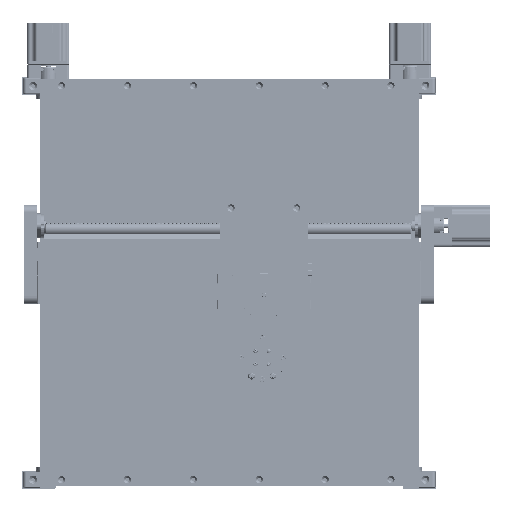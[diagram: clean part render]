
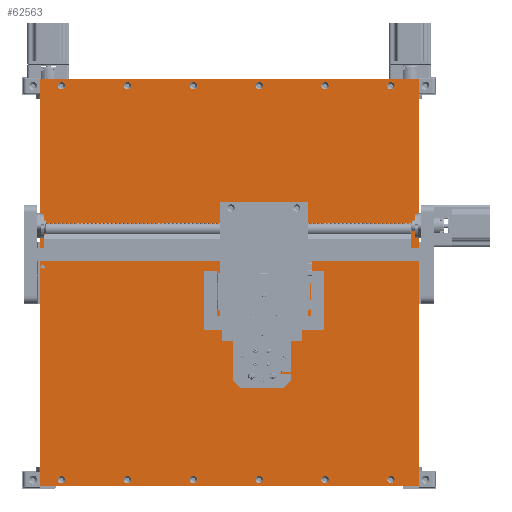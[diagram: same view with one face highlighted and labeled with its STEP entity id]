
A CAD part, top view. The second image highlights one B-rep face of the part: STEP entity #62563.
In plain terms, the highlighted planar face has unit normal (0, 0, 1).
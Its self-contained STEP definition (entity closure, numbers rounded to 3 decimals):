
#4147=FACE_BOUND('',#12591,.T.);
#4148=FACE_BOUND('',#12592,.T.);
#4149=FACE_BOUND('',#12593,.T.);
#4150=FACE_BOUND('',#12594,.T.);
#4151=FACE_BOUND('',#12595,.T.);
#4152=FACE_BOUND('',#12596,.T.);
#4153=FACE_BOUND('',#12597,.T.);
#4154=FACE_BOUND('',#12598,.T.);
#4155=FACE_BOUND('',#12599,.T.);
#4156=FACE_BOUND('',#12600,.T.);
#4157=FACE_BOUND('',#12601,.T.);
#4158=FACE_BOUND('',#12602,.T.);
#4770=PLANE('',#66543);
#9041=FACE_OUTER_BOUND('',#12590,.T.);
#12590=EDGE_LOOP('',(#43594,#43595,#43596,#43597));
#12591=EDGE_LOOP('',(#43598));
#12592=EDGE_LOOP('',(#43599));
#12593=EDGE_LOOP('',(#43600));
#12594=EDGE_LOOP('',(#43601));
#12595=EDGE_LOOP('',(#43602));
#12596=EDGE_LOOP('',(#43603));
#12597=EDGE_LOOP('',(#43604));
#12598=EDGE_LOOP('',(#43605));
#12599=EDGE_LOOP('',(#43606));
#12600=EDGE_LOOP('',(#43607));
#12601=EDGE_LOOP('',(#43608));
#12602=EDGE_LOOP('',(#43609));
#16762=LINE('',#86643,#21524);
#16763=LINE('',#86645,#21525);
#16764=LINE('',#86647,#21526);
#16765=LINE('',#86648,#21527);
#21524=VECTOR('',#71664,10.);
#21525=VECTOR('',#71665,10.);
#21526=VECTOR('',#71666,10.);
#21527=VECTOR('',#71667,10.);
#26284=CIRCLE('',#66539,5.);
#26287=CIRCLE('',#66544,5.);
#26288=CIRCLE('',#66545,5.);
#26289=CIRCLE('',#66546,5.);
#26290=CIRCLE('',#66547,5.);
#26291=CIRCLE('',#66548,5.);
#26292=CIRCLE('',#66549,5.);
#26293=CIRCLE('',#66550,5.);
#26294=CIRCLE('',#66551,5.);
#26295=CIRCLE('',#66552,5.);
#26296=CIRCLE('',#66553,5.);
#26297=CIRCLE('',#66554,5.);
#27918=VERTEX_POINT('',#86631);
#27921=VERTEX_POINT('',#86641);
#27922=VERTEX_POINT('',#86642);
#27923=VERTEX_POINT('',#86644);
#27924=VERTEX_POINT('',#86646);
#27925=VERTEX_POINT('',#86649);
#27926=VERTEX_POINT('',#86651);
#27927=VERTEX_POINT('',#86653);
#27928=VERTEX_POINT('',#86655);
#27929=VERTEX_POINT('',#86657);
#27930=VERTEX_POINT('',#86659);
#27931=VERTEX_POINT('',#86661);
#27932=VERTEX_POINT('',#86663);
#27933=VERTEX_POINT('',#86665);
#27934=VERTEX_POINT('',#86667);
#27935=VERTEX_POINT('',#86669);
#34180=EDGE_CURVE('',#27918,#27918,#26284,.T.);
#34185=EDGE_CURVE('',#27921,#27922,#16762,.T.);
#34186=EDGE_CURVE('',#27922,#27923,#16763,.T.);
#34187=EDGE_CURVE('',#27924,#27923,#16764,.T.);
#34188=EDGE_CURVE('',#27921,#27924,#16765,.T.);
#34189=EDGE_CURVE('',#27925,#27925,#26287,.T.);
#34190=EDGE_CURVE('',#27926,#27926,#26288,.T.);
#34191=EDGE_CURVE('',#27927,#27927,#26289,.T.);
#34192=EDGE_CURVE('',#27928,#27928,#26290,.T.);
#34193=EDGE_CURVE('',#27929,#27929,#26291,.T.);
#34194=EDGE_CURVE('',#27930,#27930,#26292,.T.);
#34195=EDGE_CURVE('',#27931,#27931,#26293,.T.);
#34196=EDGE_CURVE('',#27932,#27932,#26294,.T.);
#34197=EDGE_CURVE('',#27933,#27933,#26295,.T.);
#34198=EDGE_CURVE('',#27934,#27934,#26296,.T.);
#34199=EDGE_CURVE('',#27935,#27935,#26297,.T.);
#43594=ORIENTED_EDGE('',*,*,#34185,.T.);
#43595=ORIENTED_EDGE('',*,*,#34186,.T.);
#43596=ORIENTED_EDGE('',*,*,#34187,.F.);
#43597=ORIENTED_EDGE('',*,*,#34188,.F.);
#43598=ORIENTED_EDGE('',*,*,#34189,.F.);
#43599=ORIENTED_EDGE('',*,*,#34190,.F.);
#43600=ORIENTED_EDGE('',*,*,#34191,.F.);
#43601=ORIENTED_EDGE('',*,*,#34192,.F.);
#43602=ORIENTED_EDGE('',*,*,#34193,.F.);
#43603=ORIENTED_EDGE('',*,*,#34194,.F.);
#43604=ORIENTED_EDGE('',*,*,#34195,.F.);
#43605=ORIENTED_EDGE('',*,*,#34196,.F.);
#43606=ORIENTED_EDGE('',*,*,#34197,.F.);
#43607=ORIENTED_EDGE('',*,*,#34198,.F.);
#43608=ORIENTED_EDGE('',*,*,#34199,.F.);
#43609=ORIENTED_EDGE('',*,*,#34180,.F.);
#62563=ADVANCED_FACE('',(#9041,#4147,#4148,#4149,#4150,#4151,#4152,#4153,
#4154,#4155,#4156,#4157,#4158),#4770,.T.);
#66539=AXIS2_PLACEMENT_3D('',#86632,#71652,#71653);
#66543=AXIS2_PLACEMENT_3D('',#86640,#71662,#71663);
#66544=AXIS2_PLACEMENT_3D('',#86650,#71668,#71669);
#66545=AXIS2_PLACEMENT_3D('',#86652,#71670,#71671);
#66546=AXIS2_PLACEMENT_3D('',#86654,#71672,#71673);
#66547=AXIS2_PLACEMENT_3D('',#86656,#71674,#71675);
#66548=AXIS2_PLACEMENT_3D('',#86658,#71676,#71677);
#66549=AXIS2_PLACEMENT_3D('',#86660,#71678,#71679);
#66550=AXIS2_PLACEMENT_3D('',#86662,#71680,#71681);
#66551=AXIS2_PLACEMENT_3D('',#86664,#71682,#71683);
#66552=AXIS2_PLACEMENT_3D('',#86666,#71684,#71685);
#66553=AXIS2_PLACEMENT_3D('',#86668,#71686,#71687);
#66554=AXIS2_PLACEMENT_3D('',#86670,#71688,#71689);
#71652=DIRECTION('center_axis',(0.,0.,1.));
#71653=DIRECTION('ref_axis',(-1.,0.,0.));
#71662=DIRECTION('center_axis',(0.,0.,1.));
#71663=DIRECTION('ref_axis',(-1.,0.,0.));
#71664=DIRECTION('',(1.,0.,0.));
#71665=DIRECTION('',(0.,1.,0.));
#71666=DIRECTION('',(1.,0.,0.));
#71667=DIRECTION('',(0.,1.,0.));
#71668=DIRECTION('center_axis',(0.,0.,1.));
#71669=DIRECTION('ref_axis',(-1.,0.,0.));
#71670=DIRECTION('center_axis',(0.,0.,1.));
#71671=DIRECTION('ref_axis',(-1.,0.,0.));
#71672=DIRECTION('center_axis',(0.,0.,1.));
#71673=DIRECTION('ref_axis',(-1.,0.,0.));
#71674=DIRECTION('center_axis',(0.,0.,1.));
#71675=DIRECTION('ref_axis',(-1.,0.,0.));
#71676=DIRECTION('center_axis',(0.,0.,1.));
#71677=DIRECTION('ref_axis',(-1.,0.,0.));
#71678=DIRECTION('center_axis',(0.,0.,1.));
#71679=DIRECTION('ref_axis',(-1.,0.,0.));
#71680=DIRECTION('center_axis',(0.,0.,1.));
#71681=DIRECTION('ref_axis',(-1.,0.,0.));
#71682=DIRECTION('center_axis',(0.,0.,1.));
#71683=DIRECTION('ref_axis',(-1.,0.,0.));
#71684=DIRECTION('center_axis',(0.,0.,1.));
#71685=DIRECTION('ref_axis',(-1.,0.,0.));
#71686=DIRECTION('center_axis',(0.,0.,1.));
#71687=DIRECTION('ref_axis',(-1.,0.,0.));
#71688=DIRECTION('center_axis',(0.,0.,1.));
#71689=DIRECTION('ref_axis',(-1.,0.,0.));
#86631=CARTESIAN_POINT('',(226.,186.5,-80.4));
#86632=CARTESIAN_POINT('Origin',(221.,186.5,-80.4));
#86640=CARTESIAN_POINT('Origin',(0.,-92.5,-80.4));
#86641=CARTESIAN_POINT('',(-259.,-360.5,-80.4));
#86642=CARTESIAN_POINT('',(259.,-360.5,-80.4));
#86643=CARTESIAN_POINT('',(-249.,-360.5,-80.4));
#86644=CARTESIAN_POINT('',(259.,195.5,-80.4));
#86645=CARTESIAN_POINT('',(259.,175.5,-80.4));
#86646=CARTESIAN_POINT('',(-259.,195.5,-80.4));
#86647=CARTESIAN_POINT('',(-249.,195.5,-80.4));
#86648=CARTESIAN_POINT('',(-259.,175.5,-80.4));
#86649=CARTESIAN_POINT('',(136.,186.5,-80.4));
#86650=CARTESIAN_POINT('Origin',(131.,186.5,-80.4));
#86651=CARTESIAN_POINT('',(-44.,186.5,-80.4));
#86652=CARTESIAN_POINT('Origin',(-49.,186.5,-80.4));
#86653=CARTESIAN_POINT('',(-224.,186.5,-80.4));
#86654=CARTESIAN_POINT('Origin',(-229.,186.5,-80.4));
#86655=CARTESIAN_POINT('',(136.,-351.5,-80.4));
#86656=CARTESIAN_POINT('Origin',(131.,-351.5,-80.4));
#86657=CARTESIAN_POINT('',(-44.,-351.5,-80.4));
#86658=CARTESIAN_POINT('Origin',(-49.,-351.5,-80.4));
#86659=CARTESIAN_POINT('',(-224.,-351.5,-80.4));
#86660=CARTESIAN_POINT('Origin',(-229.,-351.5,-80.4));
#86661=CARTESIAN_POINT('',(-134.,-351.5,-80.4));
#86662=CARTESIAN_POINT('Origin',(-139.,-351.5,-80.4));
#86663=CARTESIAN_POINT('',(46.,-351.5,-80.4));
#86664=CARTESIAN_POINT('Origin',(41.,-351.5,-80.4));
#86665=CARTESIAN_POINT('',(226.,-351.5,-80.4));
#86666=CARTESIAN_POINT('Origin',(221.,-351.5,-80.4));
#86667=CARTESIAN_POINT('',(-134.,186.5,-80.4));
#86668=CARTESIAN_POINT('Origin',(-139.,186.5,-80.4));
#86669=CARTESIAN_POINT('',(46.,186.5,-80.4));
#86670=CARTESIAN_POINT('Origin',(41.,186.5,-80.4));
